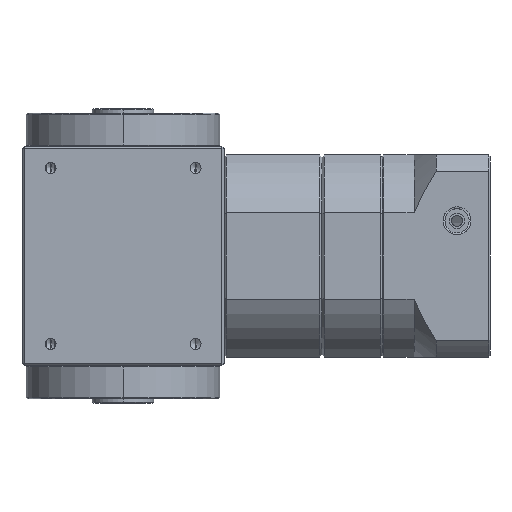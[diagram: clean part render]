
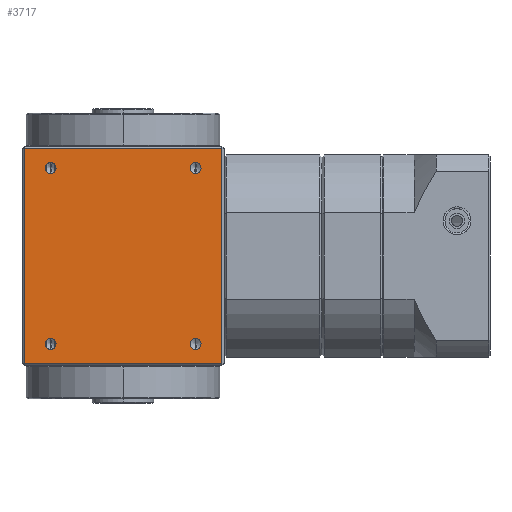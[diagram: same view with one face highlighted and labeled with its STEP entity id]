
A CAD part, left-side view. The second image highlights one B-rep face of the part: STEP entity #3717.
In plain terms, the highlighted planar face has unit normal (-1, 0, 0).
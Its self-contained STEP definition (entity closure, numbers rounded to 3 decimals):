
#252 = EDGE_CURVE ( 'NONE', #8295, #8289, #6327, .T. ) ;
#273 = EDGE_CURVE ( 'NONE', #8287, #8284, #6350, .T. ) ;
#294 = EDGE_CURVE ( 'NONE', #8298, #5394, #6375, .T. ) ;
#300 = EDGE_CURVE ( 'NONE', #8517, #8511, #6385, .T. ) ;
#400 = EDGE_CURVE ( 'NONE', #8289, #8295, #2248, .T. ) ;
#401 = EDGE_CURVE ( 'NONE', #8284, #8287, #2250, .T. ) ;
#402 = EDGE_CURVE ( 'NONE', #5394, #8298, #2251, .T. ) ;
#403 = EDGE_CURVE ( 'NONE', #8511, #8517, #2252, .T. ) ;
#404 = EDGE_CURVE ( 'NONE', #5336, #5335, #2253, .T. ) ;
#405 = EDGE_CURVE ( 'NONE', #5335, #5329, #2246, .T. ) ;
#406 = EDGE_CURVE ( 'NONE', #5329, #5328, #2256, .T. ) ;
#407 = EDGE_CURVE ( 'NONE', #5328, #5336, #2258, .T. ) ;
#670 = AXIS2_PLACEMENT_3D ( 'NONE', #8717, #8714, #8723 ) ;
#1217 = CARTESIAN_POINT ( 'NONE',  ( -46., 33., -40. ) ) ;
#1218 = DIRECTION ( 'NONE',  ( -1., 0., 0. ) ) ;
#1219 = DIRECTION ( 'NONE',  ( 0., 0., 1. ) ) ;
#1306 = CARTESIAN_POINT ( 'NONE',  ( -46., 33., 40. ) ) ;
#1307 = DIRECTION ( 'NONE',  ( -1., 0., 0. ) ) ;
#1308 = DIRECTION ( 'NONE',  ( 0., 0., 1. ) ) ;
#1937 = AXIS2_PLACEMENT_3D ( 'NONE', #1217, #1218, #1219 ) ;
#1944 = AXIS2_PLACEMENT_3D ( 'NONE', #1306, #1307, #1308 ) ;
#1952 = AXIS2_PLACEMENT_3D ( 'NONE', #6497, #6498, #6499 ) ;
#1954 = AXIS2_PLACEMENT_3D ( 'NONE', #6512, #6513, #6514 ) ;
#1985 = AXIS2_PLACEMENT_3D ( 'NONE', #6887, #6888, #6889 ) ;
#1986 = AXIS2_PLACEMENT_3D ( 'NONE', #6890, #6891, #6892 ) ;
#1987 = AXIS2_PLACEMENT_3D ( 'NONE', #6895, #6896, #6897 ) ;
#1988 = AXIS2_PLACEMENT_3D ( 'NONE', #6900, #6901, #6902 ) ;
#2246 = LINE ( 'NONE', #6899, #2257 ) ;
#2248 = CIRCLE ( 'NONE', #1985, 2.5 ) ;
#2250 = CIRCLE ( 'NONE', #1986, 2.5 ) ;
#2251 = CIRCLE ( 'NONE', #1987, 2.5 ) ;
#2252 = CIRCLE ( 'NONE', #1988, 2.5 ) ;
#2253 = LINE ( 'NONE', #6893, #2255 ) ;
#2255 = VECTOR ( 'NONE', #6894, 1000. ) ;
#2256 = LINE ( 'NONE', #6904, #2259 ) ;
#2257 = VECTOR ( 'NONE', #6903, 1000. ) ;
#2258 = LINE ( 'NONE', #6906, #2261 ) ;
#2259 = VECTOR ( 'NONE', #6905, 1000. ) ;
#2261 = VECTOR ( 'NONE', #6907, 1000. ) ;
#2957 = FACE_BOUND ( 'NONE', #8094, .T. ) ;
#2958 = FACE_OUTER_BOUND ( 'NONE', #8110, .T. ) ;
#2959 = FACE_BOUND ( 'NONE', #8093, .T. ) ;
#2960 = FACE_BOUND ( 'NONE', #8106, .T. ) ;
#2961 = FACE_BOUND ( 'NONE', #8129, .T. ) ;
#3717 = ADVANCED_FACE ( 'NONE', ( #2957, #2961, #2959, #2960, #2958 ), #8720, .F. ) ;
#3900 = CARTESIAN_POINT ( 'NONE',  ( -46., -33., -37.5 ) ) ;
#3906 = CARTESIAN_POINT ( 'NONE',  ( -46., -33., -42.5 ) ) ;
#5328 = VERTEX_POINT ( 'NONE', #9512 ) ;
#5329 = VERTEX_POINT ( 'NONE', #9513 ) ;
#5335 = VERTEX_POINT ( 'NONE', #9519 ) ;
#5336 = VERTEX_POINT ( 'NONE', #9520 ) ;
#5394 = VERTEX_POINT ( 'NONE', #9578 ) ;
#5888 = ORIENTED_EDGE ( 'NONE', *, *, #407, .T. ) ;
#5889 = ORIENTED_EDGE ( 'NONE', *, *, #406, .T. ) ;
#5890 = ORIENTED_EDGE ( 'NONE', *, *, #405, .T. ) ;
#5891 = ORIENTED_EDGE ( 'NONE', *, *, #404, .T. ) ;
#5892 = ORIENTED_EDGE ( 'NONE', *, *, #300, .F. ) ;
#5893 = ORIENTED_EDGE ( 'NONE', *, *, #403, .F. ) ;
#5894 = ORIENTED_EDGE ( 'NONE', *, *, #294, .F. ) ;
#5895 = ORIENTED_EDGE ( 'NONE', *, *, #402, .F. ) ;
#5896 = ORIENTED_EDGE ( 'NONE', *, *, #273, .F. ) ;
#5897 = ORIENTED_EDGE ( 'NONE', *, *, #401, .F. ) ;
#5898 = ORIENTED_EDGE ( 'NONE', *, *, #252, .F. ) ;
#5899 = ORIENTED_EDGE ( 'NONE', *, *, #400, .F. ) ;
#6327 = CIRCLE ( 'NONE', #1937, 2.5 ) ;
#6350 = CIRCLE ( 'NONE', #1944, 2.5 ) ;
#6375 = CIRCLE ( 'NONE', #1952, 2.5 ) ;
#6385 = CIRCLE ( 'NONE', #1954, 2.5 ) ;
#6497 = CARTESIAN_POINT ( 'NONE',  ( -46., -33., 40. ) ) ;
#6498 = DIRECTION ( 'NONE',  ( -1., 0., 0. ) ) ;
#6499 = DIRECTION ( 'NONE',  ( 0., 0., 1. ) ) ;
#6512 = CARTESIAN_POINT ( 'NONE',  ( -46., -33., -40. ) ) ;
#6513 = DIRECTION ( 'NONE',  ( -1., 0., 0. ) ) ;
#6514 = DIRECTION ( 'NONE',  ( 0., 0., 1. ) ) ;
#6887 = CARTESIAN_POINT ( 'NONE',  ( -46., 33., -40. ) ) ;
#6888 = DIRECTION ( 'NONE',  ( -1., 0., 0. ) ) ;
#6889 = DIRECTION ( 'NONE',  ( 0., 0., 1. ) ) ;
#6890 = CARTESIAN_POINT ( 'NONE',  ( -46., 33., 40. ) ) ;
#6891 = DIRECTION ( 'NONE',  ( -1., 0., 0. ) ) ;
#6892 = DIRECTION ( 'NONE',  ( 0., 0., 1. ) ) ;
#6893 = CARTESIAN_POINT ( 'NONE',  ( -46., -45., 50. ) ) ;
#6894 = DIRECTION ( 'NONE',  ( 0., 0., 1. ) ) ;
#6895 = CARTESIAN_POINT ( 'NONE',  ( -46., -33., 40. ) ) ;
#6896 = DIRECTION ( 'NONE',  ( -1., 0., 0. ) ) ;
#6897 = DIRECTION ( 'NONE',  ( 0., 0., 1. ) ) ;
#6899 = CARTESIAN_POINT ( 'NONE',  ( -46., 46., 49. ) ) ;
#6900 = CARTESIAN_POINT ( 'NONE',  ( -46., -33., -40. ) ) ;
#6901 = DIRECTION ( 'NONE',  ( -1., 0., 0. ) ) ;
#6902 = DIRECTION ( 'NONE',  ( 0., 0., 1. ) ) ;
#6903 = DIRECTION ( 'NONE',  ( 0., 1., 0. ) ) ;
#6904 = CARTESIAN_POINT ( 'NONE',  ( -46., 45., 50. ) ) ;
#6905 = DIRECTION ( 'NONE',  ( 0., 0., -1. ) ) ;
#6906 = CARTESIAN_POINT ( 'NONE',  ( -46., -46., -49. ) ) ;
#6907 = DIRECTION ( 'NONE',  ( 0., -1., 0. ) ) ;
#8093 = EDGE_LOOP ( 'NONE', ( #5895, #5894 ) ) ;
#8094 = EDGE_LOOP ( 'NONE', ( #5899, #5898 ) ) ;
#8106 = EDGE_LOOP ( 'NONE', ( #5893, #5892 ) ) ;
#8110 = EDGE_LOOP ( 'NONE', ( #5891, #5890, #5889, #5888 ) ) ;
#8129 = EDGE_LOOP ( 'NONE', ( #5897, #5896 ) ) ;
#8284 = VERTEX_POINT ( 'NONE', #9605 ) ;
#8287 = VERTEX_POINT ( 'NONE', #9608 ) ;
#8289 = VERTEX_POINT ( 'NONE', #9610 ) ;
#8295 = VERTEX_POINT ( 'NONE', #9616 ) ;
#8298 = VERTEX_POINT ( 'NONE', #9619 ) ;
#8511 = VERTEX_POINT ( 'NONE', #3900 ) ;
#8517 = VERTEX_POINT ( 'NONE', #3906 ) ;
#8714 = DIRECTION ( 'NONE',  ( 1., 0., 0. ) ) ;
#8717 = CARTESIAN_POINT ( 'NONE',  ( -46., -46., 50. ) ) ;
#8720 = PLANE ( 'NONE',  #670 ) ;
#8723 = DIRECTION ( 'NONE',  ( 0., 0., -1. ) ) ;
#9512 = CARTESIAN_POINT ( 'NONE',  ( -46., 45., -49. ) ) ;
#9513 = CARTESIAN_POINT ( 'NONE',  ( -46., 45., 49. ) ) ;
#9519 = CARTESIAN_POINT ( 'NONE',  ( -46., -45., 49. ) ) ;
#9520 = CARTESIAN_POINT ( 'NONE',  ( -46., -45., -49. ) ) ;
#9578 = CARTESIAN_POINT ( 'NONE',  ( -46., -33., 42.5 ) ) ;
#9605 = CARTESIAN_POINT ( 'NONE',  ( -46., 33., 42.5 ) ) ;
#9608 = CARTESIAN_POINT ( 'NONE',  ( -46., 33., 37.5 ) ) ;
#9610 = CARTESIAN_POINT ( 'NONE',  ( -46., 33., -37.5 ) ) ;
#9616 = CARTESIAN_POINT ( 'NONE',  ( -46., 33., -42.5 ) ) ;
#9619 = CARTESIAN_POINT ( 'NONE',  ( -46., -33., 37.5 ) ) ;
